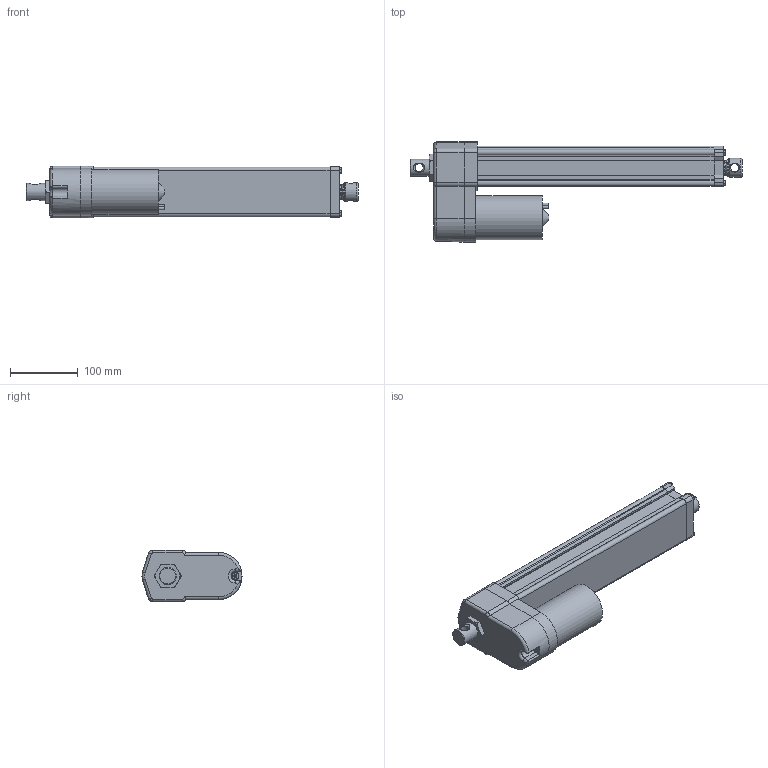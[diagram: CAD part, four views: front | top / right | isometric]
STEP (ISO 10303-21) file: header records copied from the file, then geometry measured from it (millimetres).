
FILE_DESCRIPTION( ( 'STEP AP203' ), '1' );
FILE_NAME( 'p:/temp/worker_284/temp/exporttempdir_2912_723_YnzrV/format_0/DA12-05A65M30M0N-AMM.stp', '2020-04-12T13:18:21', ( 'License CC BY-ND 4.0' ), ( 'CADENAS' ), ' ', 'PARTsolutions', ' ' );
FILE_SCHEMA( ( 'CONFIG_CONTROL_DESIGN' ) );
Length unit declared in the file: millimetre
Products named in the file (8): DA12-05A65M30M0N-AMM; _ELECTRAK-LA14-DA12-05A65MM0N-30M-EU-REAR; _Electrak-10-EU-RA-D602700; _D602768eu; _ELECTRAK-LA14-DA12--MOTOR; _DA12-05A65M30M0NAMMtube; _ELECTRAK-LA14-DA12--30-PLATE; _ELECTRAK-LA14-DA12--3005A65MNM-ROD
Assembly tree (7 placements, depth 2):
  DA12-05A65M30M0N-AMM
    _ELECTRAK-LA14-DA12-05A65MM0N-30M-EU-REAR
    _Electrak-10-EU-RA-D602700
    _D602768eu
    _ELECTRAK-LA14-DA12--MOTOR
    _DA12-05A65M30M0NAMMtube
    _ELECTRAK-LA14-DA12--30-PLATE
    _ELECTRAK-LA14-DA12--3005A65MNM-ROD
Bounding box: 491.05 x 148 x 76.2 mm (x, y, z)
Volume: 1603358.8 mm3; surface area: 381535.9 mm2
Topology: 7 solids, 8 shells, 378 faces, 942 edges, 610 vertices
Faces by surface type: plane 183, cylinder 131, cone 46, torus 14, bspline 4
Full cylindrical faces by diameter (mm): 4 x2, 4.126 x1, 4.8 x6, 5 x5, 5.6 x4, 7.878 x4, 9.398 x1, 12.2 x2, 16 x1, 21.8 x1, 25.2 x1, 25.4 x1, 26.24 x1, 28.5 x1, 28.6 x2, 47.625 x1, 65.3 x1
Entity records: 11834 total; most frequent: CARTESIAN_POINT 2729, DIRECTION 1869, ORIENTED_EDGE 1744, EDGE_CURVE 872, AXIS2_PLACEMENT_3D 702, VERTEX_POINT 602, EDGE_LOOP 485, LINE 465
